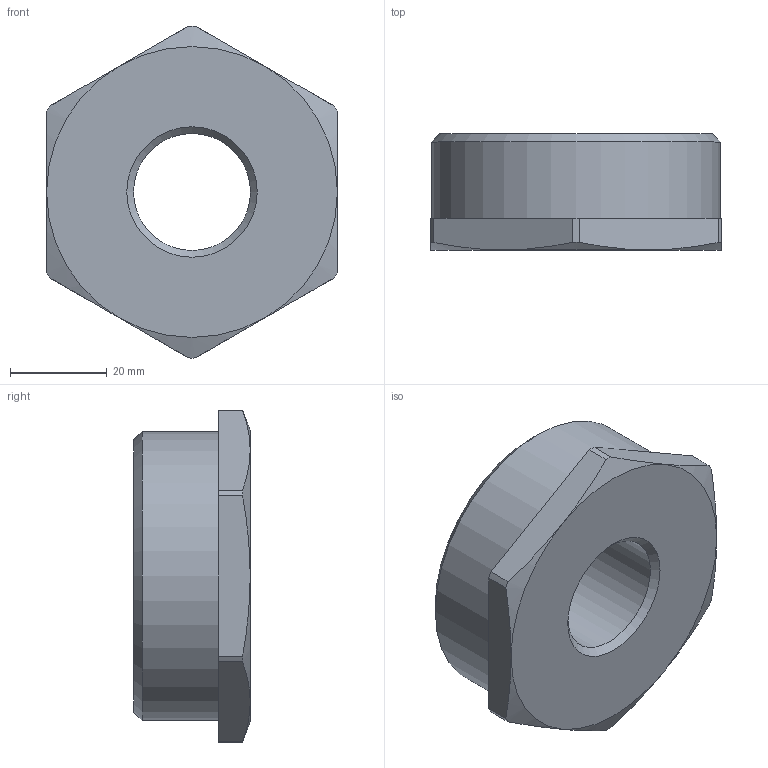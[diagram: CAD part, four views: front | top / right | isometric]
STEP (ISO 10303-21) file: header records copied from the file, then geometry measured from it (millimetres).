
FILE_DESCRIPTION(('STEP AP203'), '1');
FILE_NAME('ÂÐ.753128.040 - VTr.581.N.0905 Ôèò. ðåçüá', '2024-07-05T06:31:34', ('Boss'), (''), 'C3D Converter', 'C3D Toolkit', '');
FILE_SCHEMA(('CONFIG_CONTROL_DESIGN'));
Length unit declared in the file: millimetre
Products named in the file (1): ВР.753128.040
Bounding box: 60 x 24 x 68.5 mm (x, y, z)
Volume: 39022.8 mm3; surface area: 15985.4 mm2
Topology: 1 solids, 1 shells, 28 faces, 62 edges, 39 vertices
Faces by surface type: plane 11, cylinder 10, cone 7
Full cylindrical faces by diameter (mm): 24.118 x1, 33 x1, 49 x1, 59.614 x1
Entity records: 996 total; most frequent: CARTESIAN_POINT 362, DIRECTION 130, ORIENTED_EDGE 110, AXIS2_PLACEMENT_3D 56, EDGE_CURVE 55, EDGE_LOOP 40, VERTEX_POINT 39, ADVANCED_FACE 28
